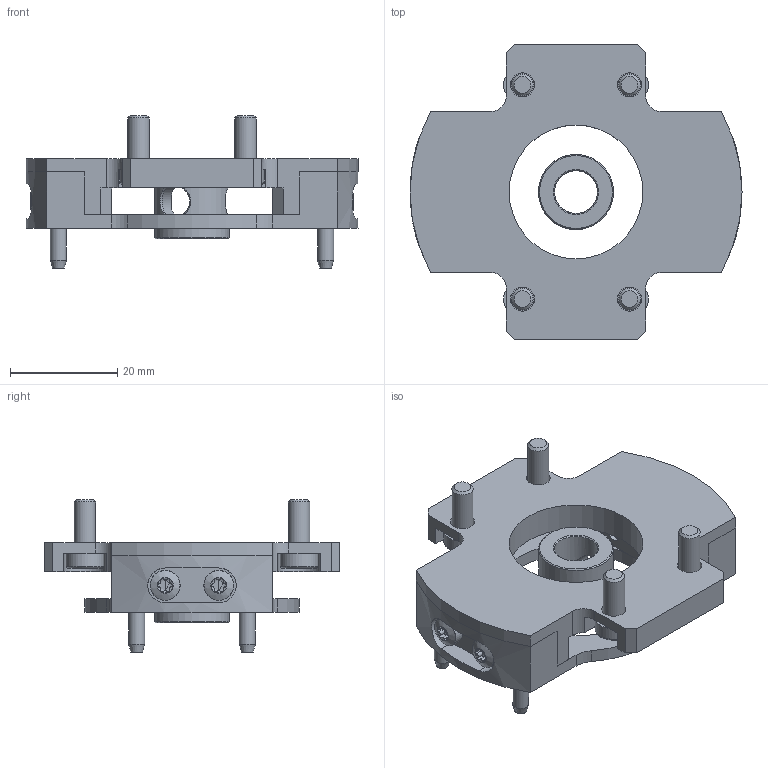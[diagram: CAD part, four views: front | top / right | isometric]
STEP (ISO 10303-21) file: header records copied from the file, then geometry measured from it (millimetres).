
FILE_DESCRIPTION(/* description */ (''),/* implementation_level */ '2;1');
FILE_NAME(/* name */ 'C:\ProgramData\PROCAD GmbH & Co. KG\NdfWork\339571_NdfWork\D00292869.step',/* time_stamp */ '2021-03-05T09:01:36+01:00',/* author */ ('fberger'),/* organization */ (''),/* preprocessor_version */ 'ST-DEVELOPER v18.1',/* originating_system */ 'Autodesk Inventor 2020',/* authorisation */ '');
FILE_SCHEMA (('AUTOMOTIVE_DESIGN { 1 0 10303 214 3 1 1 }'));
Length unit declared in the file: millimetre
Products named in the file (7): D00292869.iam; D00291212.ipt; D00291213.ipt; D00165653.ipt; D00187700.ipt; D00128762.ipt; D00292872.ipt
Assembly tree (15 placements, depth 2):
  D00292869.iam
    D00291212.ipt
    D00291213.ipt
    D00165653.ipt
    D00187700.ipt  x4
    D00128762.ipt  x4
    D00292872.ipt  x4
Bounding box: 62 x 55 x 28.5 mm (x, y, z)
Volume: 18509.5 mm3; surface area: 15636.2 mm2
Topology: 15 solids, 15 shells, 414 faces, 1125 edges, 761 vertices
Faces by surface type: cylinder 173, plane 122, bspline 51, cone 32, torus 32, sphere 4
Full cylindrical faces by diameter (mm): 2.459 x4, 2.828 x4, 3 x8, 3.3 x8, 4 x4, 4.5 x4, 5.3 x4, 5.6 x4, 6 x7, 7 x4, 8 x1, 14 x1, 25 x1, 30 x1
Entity records: 8312 total; most frequent: CARTESIAN_POINT 2930, ORIENTED_EDGE 1070, DIRECTION 1044, EDGE_CURVE 535, AXIS2_PLACEMENT_3D 398, VERTEX_POINT 366, LINE 248, VECTOR 248
